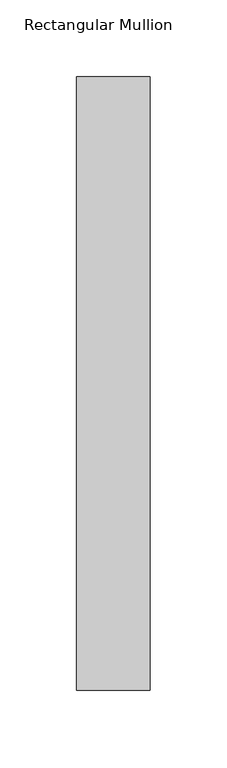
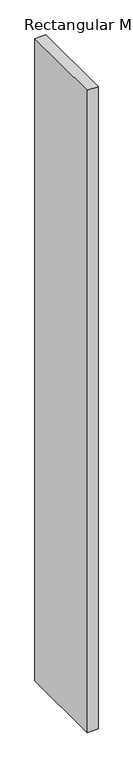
"""IFC4 building model written with IfcOpenShell, lengths in millimetres: member geometry, Rectangular Mullion : RSen_21_CWM_blade - cubic 400 - 0°_gen_duco projects."""

from ifc_helpers import new_model, si_unit, frame, origin, place, context, project, spatial, polyline, outline, extrude, source, transform, mapped, element, save


def rectangular_mullion_e1254653(model_context):
    return source(origin(), model_context, "Body", "SweptSolid", [
        extrude(outline(polyline([(-24.0, 55.0), (-24.0, 455.0), (24.0, 455.0), (24.0, 55.0), (-24.0, 55.0)])), frame((0.0, 0.0, -3000.0), z_axis=(0.0, 0.0, 1.0), x_axis=(1.0, 0.0, 0.0)), (0.0, 0.0, 1.0), 3000.0),
    ])


if __name__ == "__main__":
    model = new_model("IFC4")
    model_context = context("Model", 3, world=origin())
    ifc_project = project(units=[si_unit("LENGTHUNIT", "METRE", prefix="MILLI")], contexts=[model_context])
    site = spatial("IfcSite", under=ifc_project)
    building = spatial("IfcBuilding", under=site)
    placement = place(None, origin())
    rectangular_mullion_shape = rectangular_mullion_e1254653(model_context)
    element("IfcMember", 1, ObjectType="Rectangular Mullion : RSen_21_CWM_blade - cubic 400 - 0°_gen_duco projects", at=placement, inside=building, context=model_context, shape_type="MappedRepresentation", body=[
        mapped(rectangular_mullion_shape, transform((0.0, 0.0, 0.0), x_axis=(1.0, 0.0, 0.0), y_axis=(0.0, 1.0, 0.0), z_axis=(0.0, 0.0, 1.0))),
    ])
    save(model, "model.ifc")
